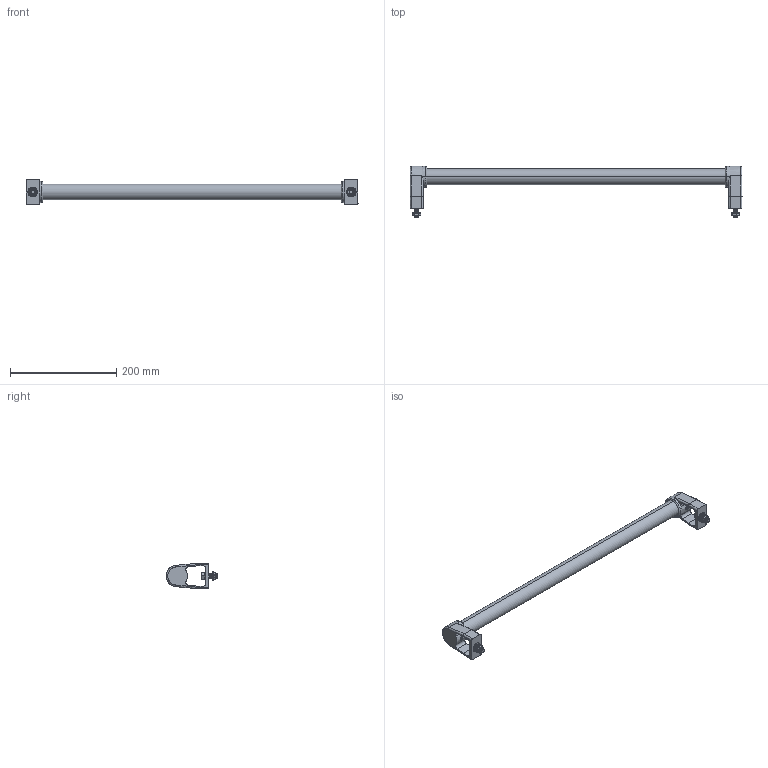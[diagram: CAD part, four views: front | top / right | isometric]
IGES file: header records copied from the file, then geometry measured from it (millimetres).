
Start section: SolidWorks IGES file using analytic representation for surfaces
Global section: file name: C:\Users\IanO\Desktop\Temp File\CADMASTER UPLOADING\78800_v2\78800_v2_20171221_IGES\78800.W0610.igs; native system: SolidWorks 2017; preprocessor: SolidWorks 2017; author: IanO; date: 180428.100934; units: millimetre
Bounding box: 625 x 97.4 x 48 mm (x, y, z)
Surface area: 149995.3 mm2 (no closed solid volume)
Topology: 0 solids, 0 shells, 486 faces, 5524 edges, 5520 vertices
Faces by surface type: revolution 372, bspline 114
